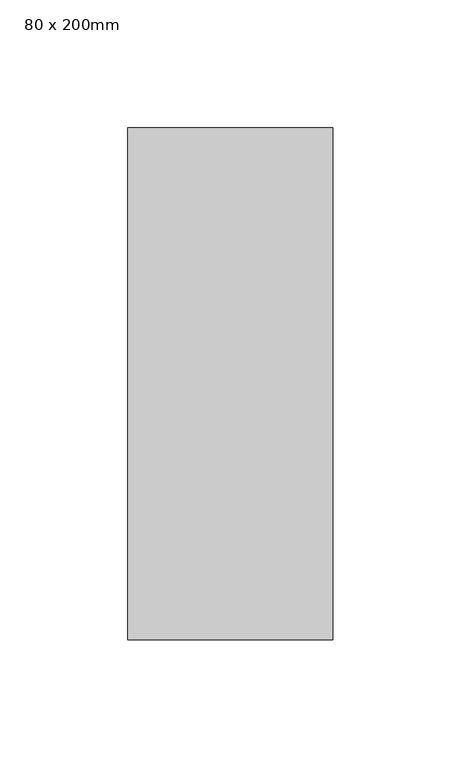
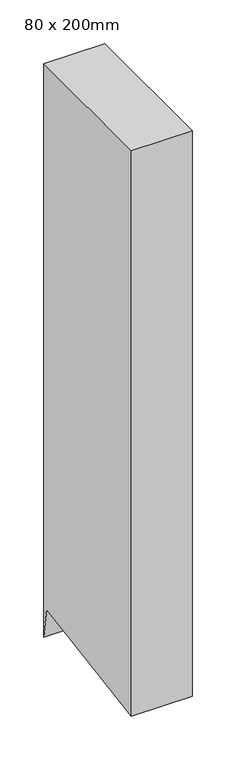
"""IFC4 building model written with IfcOpenShell, lengths in millimetres: member geometry, 矩形竖梃 : 80 x 200mm."""

from ifc_helpers import new_model, si_unit, frame, origin, place, context, project, spatial, polyline, outline, extrude, source, transform, mapped, element, save


def member_80_x_200mm_7b820ed9(model_context):
    return source(origin(), model_context, "Body", "SweptSolid", [
        extrude(outline(polyline([(-100.0, 0.0), (100.0, 0.0), (100.0, -798.7069919), (92.973187, -756.0930148), (-100.0, -787.9132435), (-100.0, 0.0)])), frame((-80.0, 0.0, 0.0), z_axis=(1.0, 0.0, 0.0), x_axis=(0.0, 1.0, 0.0)), (0.0, 0.0, 1.0), 80.0),
    ])


if __name__ == "__main__":
    model = new_model("IFC4")
    model_context = context("Model", 3, world=origin())
    ifc_project = project(units=[si_unit("LENGTHUNIT", "METRE", prefix="MILLI")], contexts=[model_context])
    site = spatial("IfcSite", under=ifc_project)
    building = spatial("IfcBuilding", under=site)
    placement = place(None, origin())
    member_80_x_200mm_shape = member_80_x_200mm_7b820ed9(model_context)
    element("IfcMember", 1, ObjectType="矩形竖梃 : 80 x 200mm", at=placement, inside=building, context=model_context, shape_type="MappedRepresentation", body=[
        mapped(member_80_x_200mm_shape, transform((0.0, 0.0, 0.0), x_axis=(1.0, 0.0, 0.0), y_axis=(0.0, 1.0, 0.0), z_axis=(0.0, 0.0, 1.0))),
    ])
    save(model, "model.ifc")
